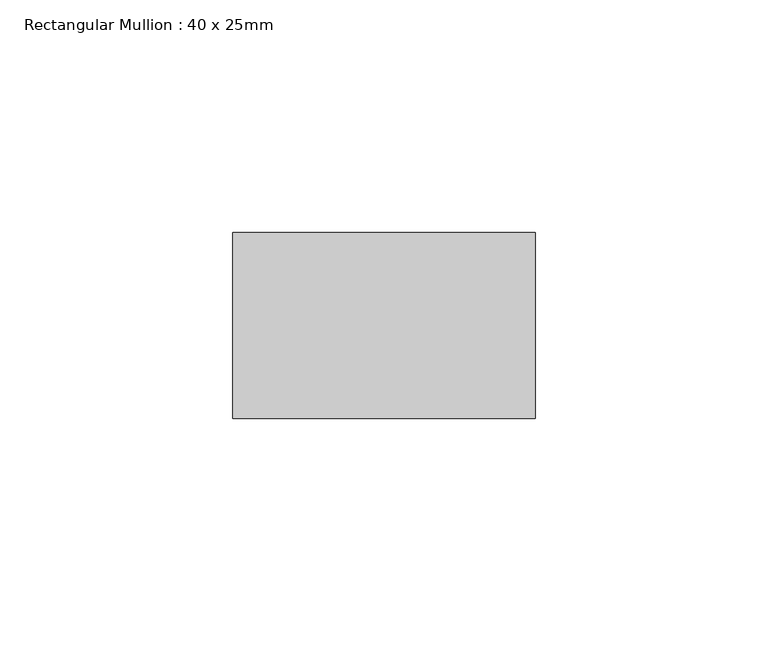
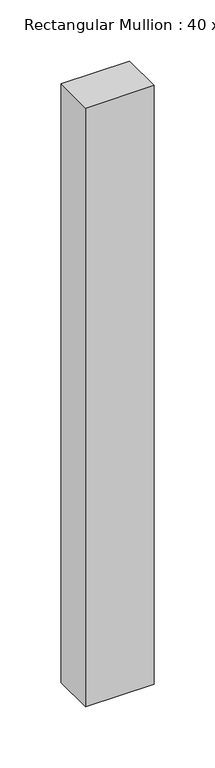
"""IFC4 building model written with IfcOpenShell, lengths in millimetres: member geometry, Rectangular Mullion : 40 x 25mm."""

from ifc_helpers import new_model, si_unit, frame, origin, place, context, project, spatial, polyline, outline, extrude, source, transform, mapped, element, save


def rectangular_mullion_40_x_25mm_7b7d9cef(model_context):
    return source(origin(), model_context, "Body", "SweptSolid", [
        extrude(outline(polyline([(0.0, -20.0), (0.0, -60.0), (-65.0, -60.0), (-65.0, -20.0), (0.0, -20.0)])), frame((0.0, 0.0, -597.9333333), z_axis=(0.0, 0.0, 1.0), x_axis=(1.0, 0.0, 0.0)), (0.0, 0.0, 1.0), 597.9333333),
    ])


if __name__ == "__main__":
    model = new_model("IFC4")
    model_context = context("Model", 3, world=origin())
    ifc_project = project(units=[si_unit("LENGTHUNIT", "METRE", prefix="MILLI")], contexts=[model_context])
    site = spatial("IfcSite", under=ifc_project)
    building = spatial("IfcBuilding", under=site)
    placement = place(None, origin())
    rectangular_mullion_40_x_25mm_shape = rectangular_mullion_40_x_25mm_7b7d9cef(model_context)
    element("IfcMember", 1, ObjectType="Rectangular Mullion : 40 x 25mm", at=placement, inside=building, context=model_context, shape_type="MappedRepresentation", body=[
        mapped(rectangular_mullion_40_x_25mm_shape, transform((0.0, 0.0, 0.0), x_axis=(1.0, 0.0, 0.0), y_axis=(0.0, 1.0, 0.0), z_axis=(0.0, 0.0, 1.0))),
    ])
    save(model, "model.ifc")
